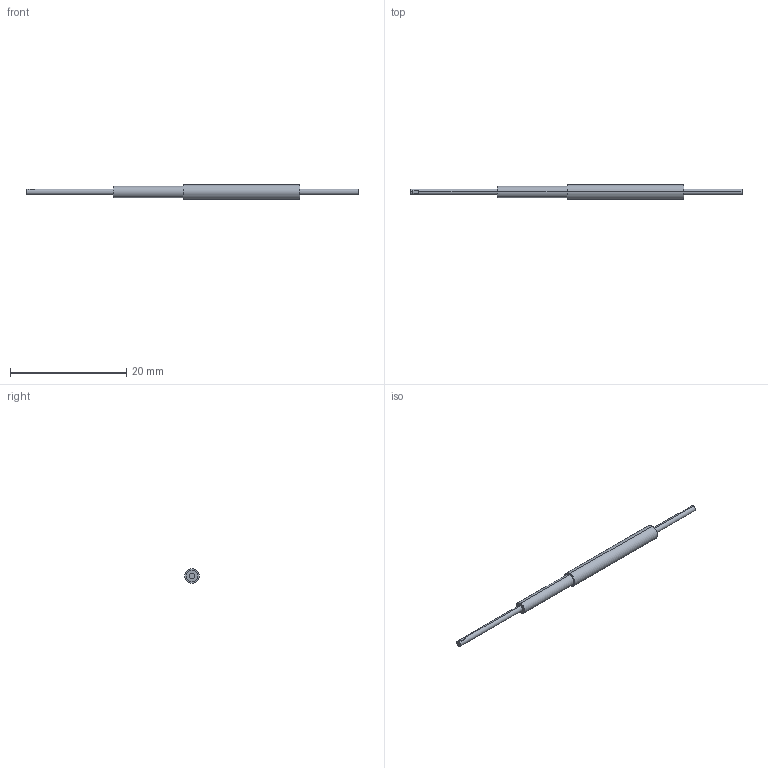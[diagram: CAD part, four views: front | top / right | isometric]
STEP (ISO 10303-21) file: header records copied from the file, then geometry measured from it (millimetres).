
FILE_DESCRIPTION (( 'STEP AP203' ), '1' );
FILE_NAME ('FT-WV42.STEP', '2005-09-08T02:32:39', ( '' ), ( '' ), 'SwSTEP 2.0', 'SolidWorks 2004073', '' );
FILE_SCHEMA (( 'CONFIG_CONTROL_DESIGN' ));
Length unit declared in the file: millimetre
Products named in the file (1): FT-WV42
Bounding box: 57 x 2.5 x 2.5 mm (x, y, z)
Volume: 155.5 mm3; surface area: 321 mm2
Topology: 1 solids, 1 shells, 18 faces, 39 edges, 26 vertices
Faces by surface type: plane 10, cylinder 8
Entity records: 580 total; most frequent: DIRECTION 97, CARTESIAN_POINT 84, ORIENTED_EDGE 78, EDGE_CURVE 39, AXIS2_PLACEMENT_3D 39, VERTEX_POINT 26, EDGE_LOOP 21, CIRCLE 20
